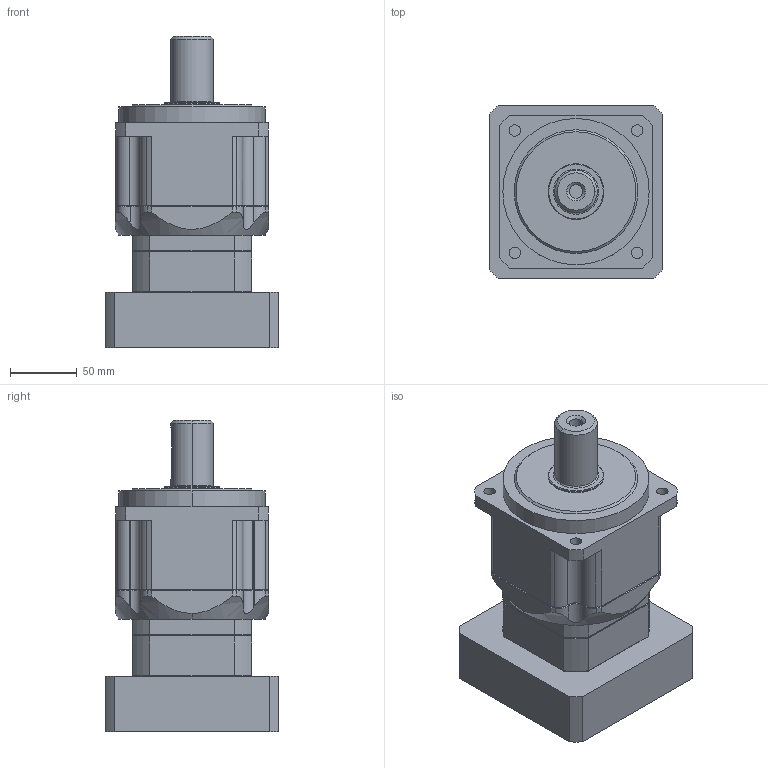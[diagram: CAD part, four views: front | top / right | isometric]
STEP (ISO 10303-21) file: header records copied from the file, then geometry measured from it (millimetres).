
FILE_DESCRIPTION (( 'STEP AP214' ), '1' );
FILE_NAME ('PAB-115-L2-S2-P1 24-110-145-M8.STEP', '2024-02-01T08:17:42', ( '微软用户' ), ( '微软中国' ), 'SwSTEP 2.0', 'SolidWorks 2018', '' );
FILE_SCHEMA (( 'AUTOMOTIVE_DESIGN' ));
Length unit declared in the file: millimetre
Products named in the file (1): PAB-115-L2-S2-P1 24-110-145-M8
Bounding box: 130 x 130 x 234 mm (x, y, z)
Volume: 1958146.3 mm3; surface area: 142056.4 mm2
Topology: 1 solids, 1 shells, 251 faces, 593 edges, 358 vertices
Faces by surface type: cylinder 99, plane 80, cone 70, torus 2
Entity records: 7763 total; most frequent: CARTESIAN_POINT 1920, DIRECTION 1267, ORIENTED_EDGE 1186, EDGE_CURVE 593, AXIS2_PLACEMENT_3D 507, VERTEX_POINT 358, EDGE_LOOP 273, CIRCLE 255
